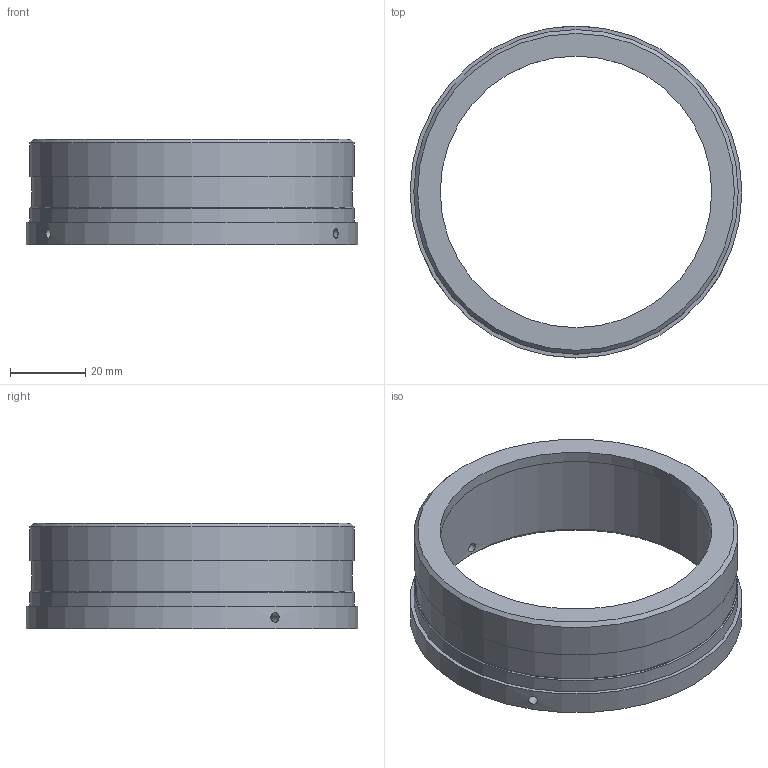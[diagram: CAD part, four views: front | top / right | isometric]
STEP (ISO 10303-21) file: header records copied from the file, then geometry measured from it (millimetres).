
FILE_DESCRIPTION (( 'STEP AP203' ), '1' );
FILE_NAME ('3d_mtl-p55-adr_a001.STEP', '2017-05-24T06:37:17', ( '' ), ( '' ), 'SwSTEP 2.0', 'SolidWorks 2014', '' );
FILE_SCHEMA (( 'CONFIG_CONTROL_DESIGN' ));
Length unit declared in the file: millimetre
Products named in the file (1): 3d_mtl-p55-adr_a001
Bounding box: 88 x 88 x 28 mm (x, y, z)
Volume: 31195 mm3; surface area: 18410.9 mm2
Topology: 1 solids, 1 shells, 18 faces, 35 edges, 23 vertices
Faces by surface type: cylinder 9, plane 6, cone 3
Full cylindrical faces by diameter (mm): 2.5 x3, 72 x1, 78 x1, 85 x1, 86 x2, 88 x1
Entity records: 691 total; most frequent: CARTESIAN_POINT 283, DIRECTION 68, ORIENTED_EDGE 42, EDGE_LOOP 42, AXIS2_PLACEMENT_3D 34, FACE_OUTER_BOUND 27, VERTEX_POINT 21, EDGE_CURVE 21
